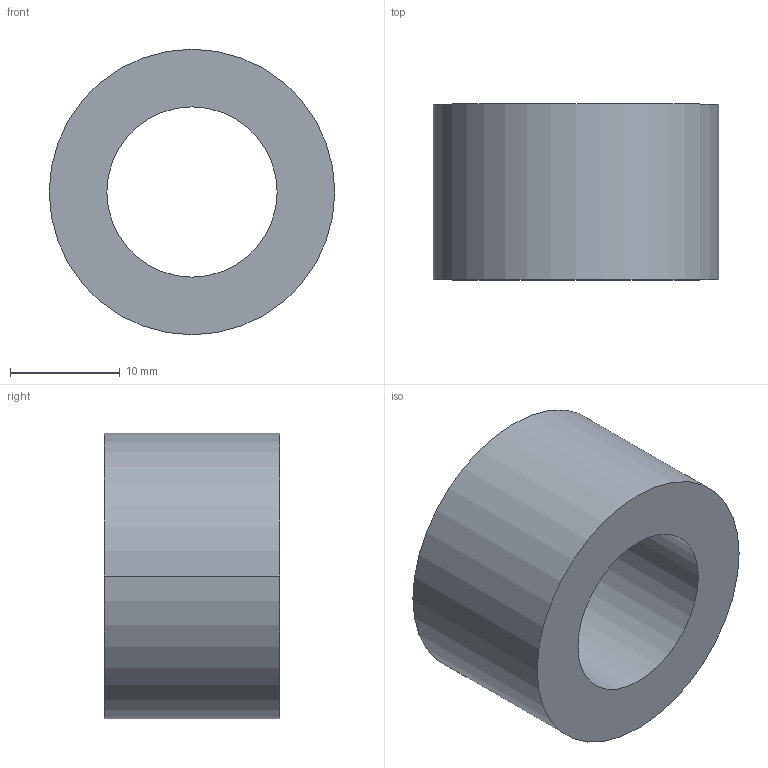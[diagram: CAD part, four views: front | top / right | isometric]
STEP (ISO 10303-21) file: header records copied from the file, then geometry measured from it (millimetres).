
FILE_DESCRIPTION (( 'STEP AP203' ), '1' );
FILE_NAME ('30800.WPP26F15.5.step', '2019-01-23T22:45:11', ( '' ), ( '' ), 'SwSTEP 2.0', 'SolidWorks 2017', '' );
FILE_SCHEMA (( 'CONFIG_CONTROL_DESIGN' ));
Length unit declared in the file: millimetre
Products named in the file (1): 30800.WPP26F15.5
Bounding box: 26 x 16 x 26 mm (x, y, z)
Volume: 5431.6 mm3; surface area: 2730.5 mm2
Topology: 1 solids, 1 shells, 8 faces, 16 edges, 10 vertices
Faces by surface type: cylinder 4, torus 2, plane 2
Entity records: 297 total; most frequent: DIRECTION 46, CARTESIAN_POINT 35, ORIENTED_EDGE 32, AXIS2_PLACEMENT_3D 21, EDGE_CURVE 16, CIRCLE 12, VERTEX_POINT 10, EDGE_LOOP 10
